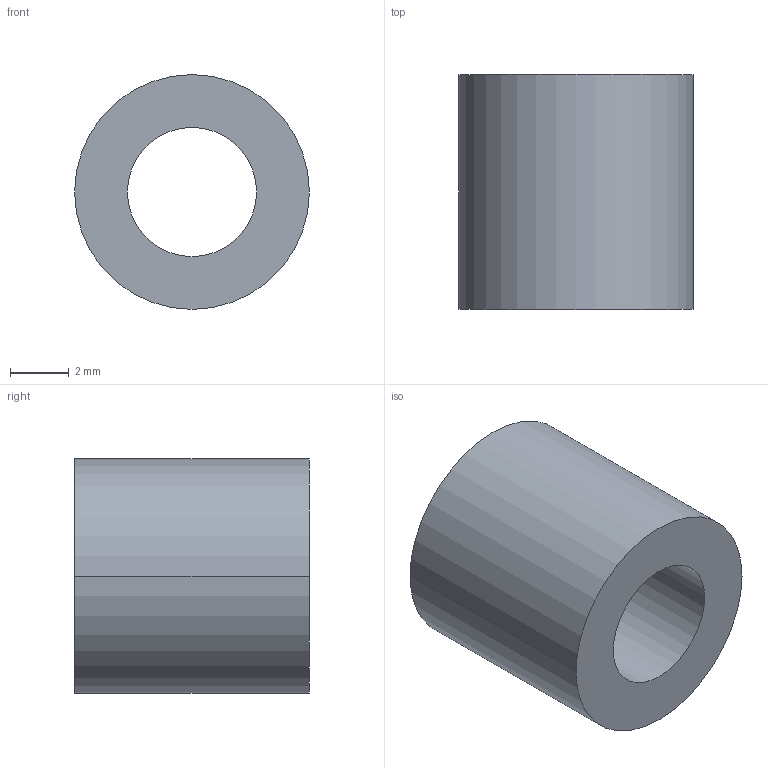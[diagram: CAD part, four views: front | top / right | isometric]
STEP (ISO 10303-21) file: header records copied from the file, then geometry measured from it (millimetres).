
FILE_DESCRIPTION (( 'STEP AP203' ), '1' );
FILE_NAME ('30800.WPP8B4.4.step', '2019-01-23T22:20:58', ( '' ), ( '' ), 'SwSTEP 2.0', 'SolidWorks 2017', '' );
FILE_SCHEMA (( 'CONFIG_CONTROL_DESIGN' ));
Length unit declared in the file: millimetre
Products named in the file (1): 30800.WPP8B4.4
Bounding box: 8 x 8 x 8 mm (x, y, z)
Volume: 277.2 mm3; surface area: 376.3 mm2
Topology: 1 solids, 1 shells, 8 faces, 16 edges, 10 vertices
Faces by surface type: cylinder 4, torus 2, plane 2
Entity records: 297 total; most frequent: DIRECTION 46, CARTESIAN_POINT 35, ORIENTED_EDGE 32, AXIS2_PLACEMENT_3D 21, EDGE_CURVE 16, CIRCLE 12, VERTEX_POINT 10, EDGE_LOOP 10
